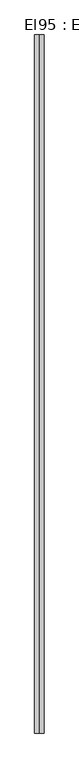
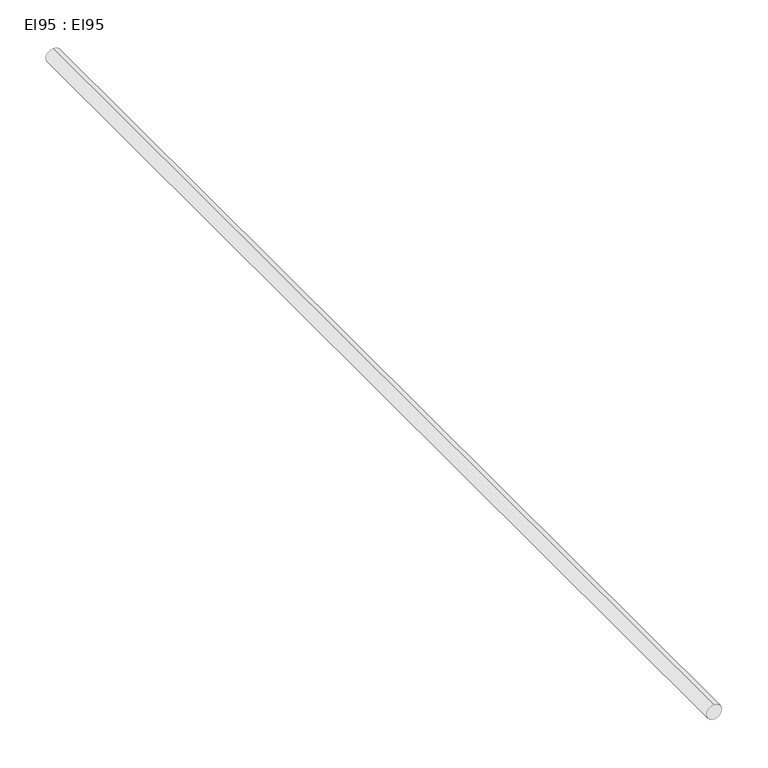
"""IFC4 building model written with IfcOpenShell, lengths in millimetres: cable carrier segment geometry, El95 : El95."""

from ifc_helpers import new_model, si_unit, point, frame, frame_2d, origin, place, context, project, spatial, circle_curve, trimmed, segment, composite_curve, outline, extrude, source, transform, mapped, element, save


def el95_el95_a2132a58(model_context):
    return source(origin(), model_context, "Body", "SweptSolid", [
        extrude(outline(composite_curve([segment(trimmed(circle_curve(frame_2d((2950.0, 27630.08304)), 9.5), [point((2940.5, 27630.08304))], [point((2959.5, 27630.08304))], False, "CARTESIAN"), True, "CONTINUOUS"), segment(trimmed(circle_curve(frame_2d((2950.0, 27630.08304)), 9.5), [point((2959.5, 27630.08304))], [point((2940.5, 27630.08304))], False, "CARTESIAN"), True, "CONTINUOUS")], self_intersect=False)), frame((0.0, 17676.372, 0.0), z_axis=(0.0, 1.0, 0.0), x_axis=(0.0, 0.0, 1.0)), (0.0, 0.0, 1.0), 1431.65),
    ])


if __name__ == "__main__":
    model = new_model("IFC4")
    model_context = context("Model", 3, world=origin())
    ifc_project = project(units=[si_unit("LENGTHUNIT", "METRE", prefix="MILLI")], contexts=[model_context])
    site = spatial("IfcSite", under=ifc_project)
    building = spatial("IfcBuilding", under=site)
    placement = place(None, origin())
    el95_el95_shape = el95_el95_a2132a58(model_context)
    element("IfcCableCarrierSegment", 1, ObjectType="El95 : El95", at=placement, inside=building, context=model_context, shape_type="MappedRepresentation", body=[
        mapped(el95_el95_shape, transform((0.0, 0.0, 0.0), x_axis=(1.0, 0.0, 0.0), y_axis=(0.0, 1.0, 0.0), z_axis=(0.0, 0.0, 1.0))),
    ])
    save(model, "model.ifc")
